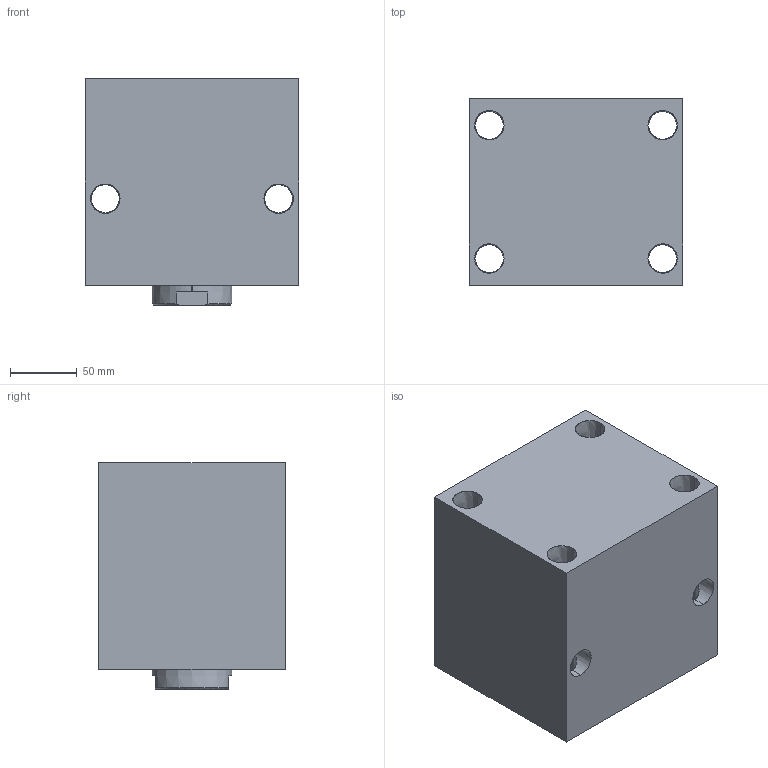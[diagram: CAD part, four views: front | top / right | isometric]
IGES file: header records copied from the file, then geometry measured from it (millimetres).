
Start section: SolidWorks IGES file using analytic representation for surfaces
Global section: file name: D:\karuppas\Clasp\3D model\Block cylinder B01C-Female thread\B01C-975F\Block cylinder B01C-975F.IGS; native system: SolidWorks 2017; preprocessor: SolidWorks 2017; author: pc; date: 220710.001220; units: millimetre
Bounding box: 160 x 140 x 170 mm (x, y, z)
Surface area: 243614.4 mm2 (no closed solid volume)
Topology: 0 solids, 0 shells, 342 faces, 5212 edges, 5206 vertices
Faces by surface type: bspline 290, revolution 52
